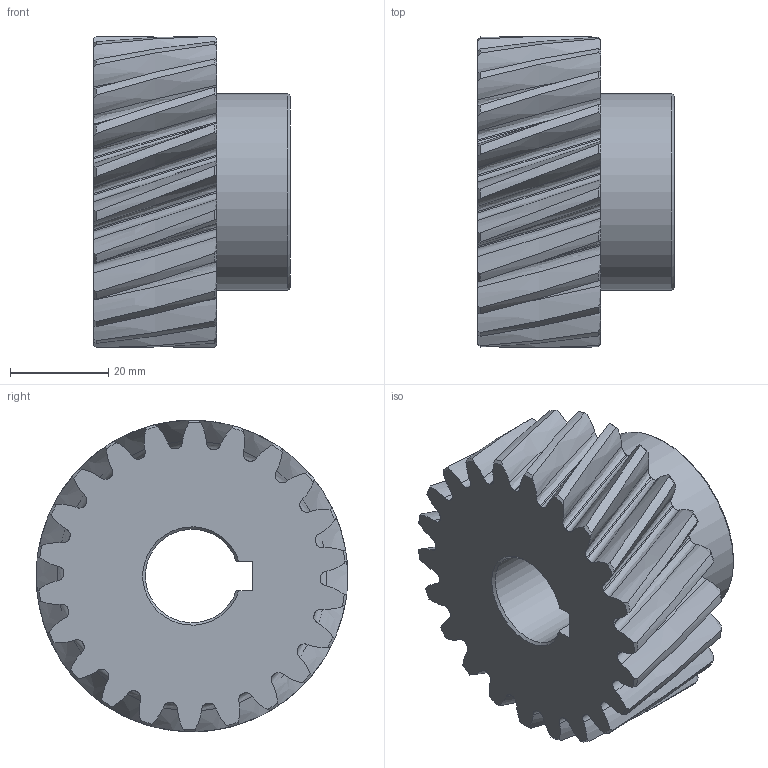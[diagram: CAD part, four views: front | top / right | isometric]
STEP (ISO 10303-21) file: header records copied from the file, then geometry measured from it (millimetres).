
FILE_DESCRIPTION(('STEP AP214'), '1');
FILE_NAME('GH2,5-T22D19 - Øåñòåðíÿ', '2018-02-16T11:37:18', (''), (''), 'ASCON STEP Converter 1.3', 'ASCON Math Kernel', '');
FILE_SCHEMA(('AUTOMOTIVE_DESIGN { 1 0 10303 214 3 1 1}'));
Length unit declared in the file: millimetre
Products named in the file (1): GH2,5-T22D19
Bounding box: 40 x 63.34 x 63.36 mm (x, y, z)
Volume: 72836.3 mm3; surface area: 18022.3 mm2
Topology: 1 solids, 1 shells, 189 faces, 558 edges, 373 vertices
Faces by surface type: bspline 88, cylinder 48, cone 47, plane 6
Full cylindrical faces by diameter (mm): 40 x1
Entity records: 13555 total; most frequent: CARTESIAN_POINT 7786, ORIENTED_EDGE 1110, EDGE_CURVE 555, DIRECTION 502, B_SPLINE_CURVE_WITH_KNOTS 401, VERTEX_POINT 371, AXIS2_PLACEMENT_3D 245, EDGE_LOOP 194
